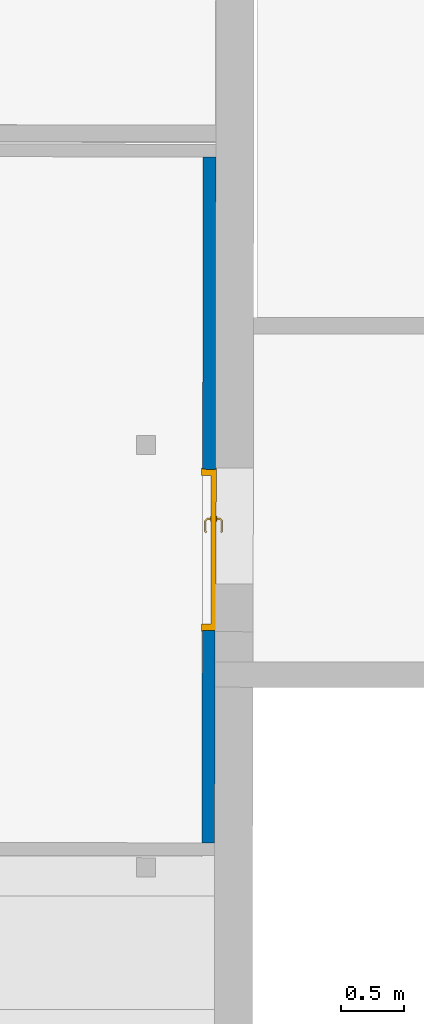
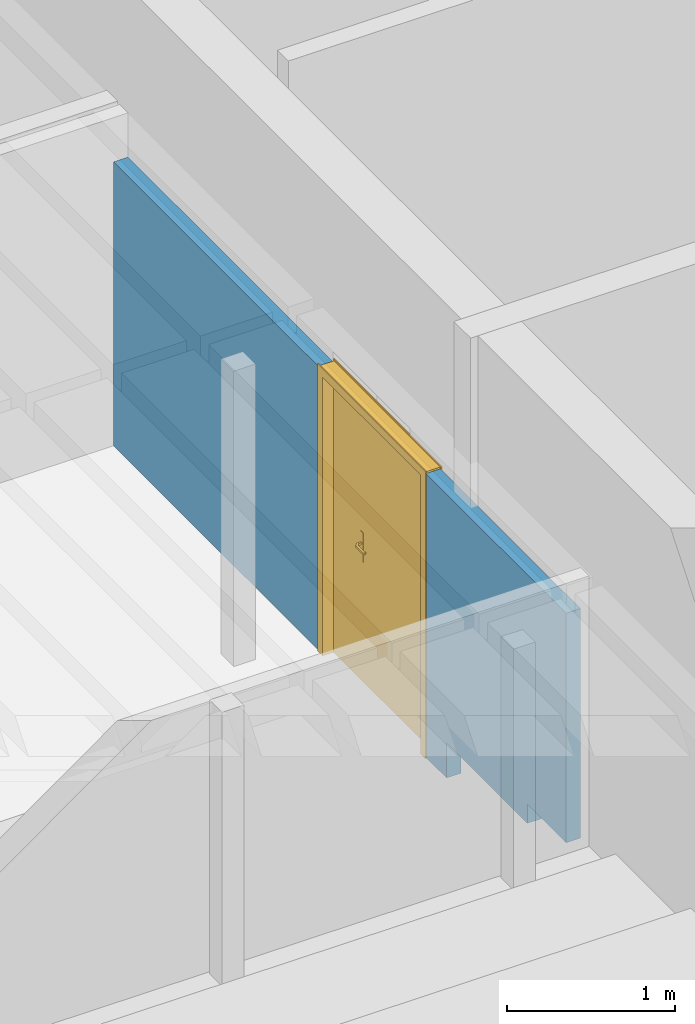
# One storey, part 14 of 24: 1 door, 1 wall, 1 opening.
"""IFC2X3 building model written with IfcOpenShell, lengths in metres."""

from ifc_helpers import new_model, entity, si_unit, converted_unit, derived_unit, direction, frame, frame_2d, origin, place, context, subcontext, project, spatial, rectangle, extrude, faceted_brep, source, transform, mapped, material, material_list, layer, layer_set, type_object, type_shapes, element, fill, save


model = new_model("IFC2X3")

# Units and contexts
model_context = context("Model", 3, precision=1e-05, world=origin(), true_north=direction((6.123233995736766e-17, 1.0)))
body_context = subcontext(model_context, "Body", "Model", "MODEL_VIEW")
ifc_project = project(units=[si_unit("LENGTHUNIT", "METRE"), si_unit("AREAUNIT", "SQUARE_METRE"), converted_unit("PLANEANGLEUNIT", "DEGREE", entity("IfcPlaneAngleMeasure", 0.017453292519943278), si_unit("PLANEANGLEUNIT", "RADIAN"), dimensions=[0, 0, 0, 0, 0, 0, 0]), derived_unit("THERMALTRANSMITTANCEUNIT", [(si_unit("MASSUNIT", "GRAM", prefix="KILO"), 1), (si_unit("THERMODYNAMICTEMPERATUREUNIT", "KELVIN"), -1), (si_unit("TIMEUNIT", "SECOND"), -3)])], contexts=[model_context])

# Site, building, storey
site_placement = place(None, frame((1253.6752467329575, 2072.143113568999, 91.49999999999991), z_axis=(0.0, 0.0, 1.0), x_axis=(0.7237211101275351, 0.6900925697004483, 0.0)))
site = spatial("IfcSite", under=ifc_project, at=site_placement, Name="Surface", CompositionType="ELEMENT")
building_placement = place(site_placement, origin())
building = spatial("IfcBuilding", under=site, at=building_placement, CompositionType="ELEMENT")
storey_placement = place(building_placement, frame((0.0, 0.0, -7.049999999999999)))
storey = spatial("IfcBuildingStorey", under=building, at=storey_placement, Name="R-1", CompositionType="ELEMENT", Elevation=-7.049999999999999)

# Wall, opening, door
ifc_material_1 = material(Name="OMD_Cloison 100mm CF1h")
ifc_layer = layer(ifc_material_1, 0.1)
ifc_layer_set = layer_set([ifc_layer], Name="Mur de base:Cloison 100mm CF1h")
wall_type = type_object("IfcWallType", Name="Mur de base:Cloison 100mm CF1h", PredefinedType="STANDARD", material=ifc_layer_set)
wall_placement = place(storey_placement, frame((188.11589279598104, -0.2127990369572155, 0.0), z_axis=(0.0, 0.0, 1.0), x_axis=(-0.6913353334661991, -0.7225340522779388, 0.0)))
wall = element("IfcWall", 1, at=wall_placement, inside=storey, type_object=wall_type, Name="Mur de base:Cloison 100mm CF1h", ObjectType="Mur de base:Cloison 100mm CF1h", context=body_context, shape_type="Brep", body=[
    faceted_brep([(0.0, -0.04999999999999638, 2.06199999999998), (0.0, -0.05000000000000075, 0.0), (2.4593574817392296, -0.05000000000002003, 0.0), (2.4593574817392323, -0.050000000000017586, 2.06199999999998), (2.4593574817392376, 0.049999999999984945, 0.0), (2.459357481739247, 0.04999999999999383, 2.06199999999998), (1.0454960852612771e-06, -0.048820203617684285, 2.06199999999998), (8.861665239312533e-05, 0.05000000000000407, 2.06199999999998), (8.861665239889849e-05, 0.05000000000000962, 0.0)], [[[0, 1, 2, 3]], [[3, 2, 4, 5]], [[1, 0, 6, 7, 8]], [[6, 0, 3]], [[1, 8, 4, 2]], [[7, 6, 3, 5]], [[8, 7, 5, 4]]]),
    faceted_brep([(5.403252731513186, 0.04999999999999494, 2.06199999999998), (5.403252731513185, 0.049999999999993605, 0.3952302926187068), (4.940337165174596, 0.05000000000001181, 0.39566373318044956), (4.94020607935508, 0.04999999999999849, 0.2556637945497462), (3.976823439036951, 0.049999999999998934, 0.2566225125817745), (3.976823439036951, 0.049999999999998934, 0.0), (3.7293574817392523, 0.04999999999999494, 0.0), (3.7293574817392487, 0.04999999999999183, 2.06199999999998), (5.403301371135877, -0.049999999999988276, 2.06199999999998), (5.403301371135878, -0.04999999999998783, 0.3952302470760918), (3.7293574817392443, -0.050000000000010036, 0.0), (3.7293574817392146, -0.04999999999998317, 2.06199999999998), (4.9402060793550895, -0.05000000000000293, 0.2556637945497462), (3.976872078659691, -0.05000000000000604, 0.25662246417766), (4.940337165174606, -0.04999999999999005, 0.39566373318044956), (3.976872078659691, -0.05000000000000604, 0.0)], [[[0, 1, 2, 3, 4, 5, 6, 7]], [[8, 9, 1, 0]], [[10, 11, 7, 6]], [[12, 13, 4, 3]], [[14, 12, 3, 2]], [[9, 14, 2, 1]], [[13, 15, 5, 4]], [[8, 0, 7, 11]], [[5, 15, 10, 6]], [[9, 8, 11, 10, 15, 13, 12, 14]]]),
])
opening_placement = place(wall_placement, frame((2.4593574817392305, -0.05000000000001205, 0.0)))
opening = element("IfcOpeningElement", 2, at=opening_placement, cuts=wall, Name="Tierce (R):1.20m x 2.04m:1", ObjectType="Opening", context=body_context, shape_type="SweptSolid", body=[
    extrude(rectangle(XDim=2.0749999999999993, YDim=1.2699999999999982, at=frame_2d((1.0374999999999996, 0.6350000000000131), x_axis=(1.0, 0.0))), frame((0.0, 0.0, 0.0), z_axis=(0.0, 1.0, 0.0), x_axis=(0.0, 0.0, 1.0)), (0.0, 0.0, 1.0), 0.09999999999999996),
])
ifc_material_2 = material(Name="Porte - Poignée")
ifc_material_3 = material(Name="OMD_RAL1032")
ifc_material_list = material_list([ifc_material_2, ifc_material_3])
door_style = type_object("IfcDoorStyle", Name="Tierce (R):1.20m x 2.04m", ConstructionType="NOTDEFINED", OperationType="NOTDEFINED", ParameterTakesPrecedence=False, Sizeable=False, material=ifc_material_list)
shared_shape = source(origin(), body_context, "Body", "Brep", [
    faceted_brep([(0.8820252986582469, 0.036999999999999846, 1.0077804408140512), (0.8779747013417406, 0.036999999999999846, 1.0077804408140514), (0.8739999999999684, 0.036999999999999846, 1.0069999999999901), (0.873999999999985, 0.036999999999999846, 0.993000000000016), (0.8779747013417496, 0.036999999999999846, 0.9922195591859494), (0.8820252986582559, 0.036999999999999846, 0.9922195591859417), (0.8860000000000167, 0.036999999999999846, 0.9929999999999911), (0.8860000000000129, 0.036999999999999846, 1.0069999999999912), (0.8739999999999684, 0.05948520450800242, 1.0069999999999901), (0.8739999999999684, 0.05948520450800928, 0.993000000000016), (0.8779747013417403, 0.061131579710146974, 1.0077804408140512), (0.8820252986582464, 0.062809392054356, 1.0077804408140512), (0.8658389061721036, 0.07899578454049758, 1.0077804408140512), (0.8641610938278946, 0.07494518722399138, 1.0077804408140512), (0.7807931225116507, 0.07494518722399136, 1.0077804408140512), (0.779115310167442, 0.07899578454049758, 1.007780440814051), (0.7714510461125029, 0.07133152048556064, 1.007780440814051), (0.7743152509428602, 0.06846731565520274, 1.0077804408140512), (0.8860000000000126, 0.06445576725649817, 1.0069999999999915), (0.8860000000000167, 0.06445576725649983, 0.9929999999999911), (0.882025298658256, 0.06280939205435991, 0.9922195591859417), (0.8779747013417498, 0.06113157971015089, 0.9922195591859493), (0.8641610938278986, 0.07494518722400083, 0.9922195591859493), (0.8658389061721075, 0.07899578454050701, 0.9922195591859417), (0.7791153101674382, 0.078995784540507, 0.9922195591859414), (0.7807931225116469, 0.0749451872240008, 0.9922195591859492), (0.7743152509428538, 0.0684673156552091, 0.9922195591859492), (0.7714510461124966, 0.07133152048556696, 0.9922195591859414), (0.8625147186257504, 0.07097048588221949, 1.0069999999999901), (0.8625147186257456, 0.07097048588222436, 0.993000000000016), (0.8674852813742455, 0.0829704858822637, 1.0069999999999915), (0.8674852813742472, 0.08297048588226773, 0.9929999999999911), (0.8224771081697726, 0.0709704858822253, 1.006999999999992), (0.782439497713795, 0.07097048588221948, 1.00699999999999), (0.7824394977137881, 0.0709704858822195, 0.9930000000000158), (0.8224771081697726, 0.07097048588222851, 0.9930000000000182), (0.8224771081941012, 0.07712492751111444, 1.0078781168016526), (0.8173994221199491, 0.0829704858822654, 1.0069999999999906), (0.7774689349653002, 0.08297048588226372, 1.006999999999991), (0.8275547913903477, 0.0829704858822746, 0.992999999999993), (0.7774689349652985, 0.08297048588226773, 0.9929999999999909), (0.8224771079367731, 0.07712492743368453, 0.992121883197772), (0.7686405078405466, 0.0741420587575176, 1.00699999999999), (0.7686405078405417, 0.07414205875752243, 0.9929999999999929), (0.7771257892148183, 0.06565677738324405, 0.9930000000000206), (0.777125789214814, 0.06565677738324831, 1.006999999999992)], [[[0, 1, 2, 3, 4, 5, 6, 7]], [[8, 9, 3, 2]], [[1, 10, 8, 2]], [[1, 0, 11, 12, 13, 10]], [[14, 15, 16, 17]], [[7, 18, 11, 0]], [[18, 7, 6, 19]], [[6, 5, 20, 19]], [[5, 4, 21, 22, 23, 20]], [[24, 25, 26, 27]], [[4, 3, 9, 21]], [[28, 29, 9, 8]], [[8, 10, 13, 28]], [[18, 30, 12, 11]], [[31, 30, 18, 19]], [[19, 20, 23, 31]], [[21, 9, 29, 22]], [[29, 28, 32, 33, 34, 35]], [[36, 32, 13]], [[37, 38, 15]], [[37, 12, 30]], [[36, 12, 37]], [[14, 32, 36]], [[36, 15, 14]], [[28, 13, 32]], [[32, 14, 33]], [[12, 36, 13]], [[15, 36, 37]], [[30, 31, 39, 40, 38, 37]], [[23, 41, 39]], [[24, 39, 41]], [[39, 31, 23]], [[39, 24, 40]], [[22, 35, 41]], [[41, 23, 22]], [[41, 35, 25]], [[35, 22, 29]], [[34, 25, 35]], [[24, 41, 25]], [[17, 16, 42, 43, 27, 26, 44, 45]], [[45, 44, 34, 33]], [[33, 14, 17, 45]], [[15, 38, 42, 16]], [[43, 42, 38, 40]], [[24, 27, 43, 40]], [[34, 44, 26, 25]]]),
    faceted_brep([(0.8779747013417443, -0.013000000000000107, 1.0077804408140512), (0.8820252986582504, -0.013000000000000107, 1.007780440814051), (0.8860000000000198, -0.013000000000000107, 1.0069999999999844), (0.8860000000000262, -0.013000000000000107, 0.9929999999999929), (0.8820252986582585, -0.013000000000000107, 0.9922195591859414), (0.8779747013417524, -0.013000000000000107, 0.9922195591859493), (0.8739999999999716, -0.013000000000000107, 0.9930000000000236), (0.8739999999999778, -0.013000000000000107, 1.0069999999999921), (0.8820252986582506, -0.03900457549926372, 1.007780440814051), (0.8860000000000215, -0.04065095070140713, 1.0069999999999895), (0.8779747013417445, -0.03732676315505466, 1.0077804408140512), (0.8642986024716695, -0.05100286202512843, 1.0077804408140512), (0.8659764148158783, -0.055053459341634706, 1.007780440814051), (0.7791424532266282, -0.055053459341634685, 1.0077804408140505), (0.7808202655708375, -0.05100286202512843, 1.007780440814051), (0.7743423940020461, -0.044524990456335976, 1.007780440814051), (0.7714781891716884, -0.04738919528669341, 1.0077804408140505), (0.8739999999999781, -0.03568038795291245, 1.0069999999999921), (0.8739999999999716, -0.03568038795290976, 0.9930000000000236), (0.8779747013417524, -0.03732676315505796, 0.9922195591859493), (0.8820252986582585, -0.03900457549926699, 0.9922195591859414), (0.8659764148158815, -0.05505345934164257, 0.9922195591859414), (0.8642986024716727, -0.05100286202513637, 0.9922195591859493), (0.7808202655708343, -0.05100286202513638, 0.9922195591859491), (0.7791424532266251, -0.05505345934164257, 0.9922195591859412), (0.7714781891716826, -0.04738919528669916, 0.9922195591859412), (0.7743423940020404, -0.04452499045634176, 0.9922195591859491), (0.8860000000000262, -0.0406509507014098, 0.9929999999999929), (0.8676227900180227, -0.05902816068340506, 1.0069999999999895), (0.8626522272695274, -0.047028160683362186, 1.0069999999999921), (0.8626522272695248, -0.047028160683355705, 0.9930000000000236), (0.8676227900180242, -0.05902816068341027, 0.9929999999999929), (0.8225594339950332, -0.05318280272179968, 1.0078781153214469), (0.8276923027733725, -0.059028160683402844, 1.0069999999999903), (0.777496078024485, -0.05902816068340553, 1.0069999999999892), (0.8225594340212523, -0.047028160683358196, 1.006999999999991), (0.7824666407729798, -0.04702816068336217, 1.006999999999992), (0.8225594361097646, -0.04702816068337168, 0.9930000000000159), (0.7824666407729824, -0.04702816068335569, 0.9930000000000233), (0.8225594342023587, -0.053182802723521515, 0.9921218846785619), (0.8174265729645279, -0.059028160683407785, 0.9929999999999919), (0.7774960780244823, -0.05902816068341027, 0.9929999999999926), (0.7771529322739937, -0.041714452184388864, 0.9930000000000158), (0.7686676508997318, -0.05019973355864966, 0.9929999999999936), (0.7686676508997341, -0.050199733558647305, 1.0069999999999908), (0.7771529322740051, -0.04171445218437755, 1.0069999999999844)], [[[0, 1, 2, 3, 4, 5, 6, 7]], [[2, 1, 8, 9]], [[1, 0, 10, 11, 12, 8]], [[13, 14, 15, 16]], [[0, 7, 17, 10]], [[18, 17, 7, 6]], [[5, 19, 18, 6]], [[5, 4, 20, 21, 22, 19]], [[23, 24, 25, 26]], [[3, 27, 20, 4]], [[9, 27, 3, 2]], [[9, 8, 12, 28]], [[10, 17, 29, 11]], [[30, 29, 17, 18]], [[18, 19, 22, 30]], [[20, 27, 31, 21]], [[28, 31, 27, 9]], [[12, 32, 33]], [[13, 33, 32]], [[33, 28, 12]], [[33, 13, 34]], [[11, 35, 32]], [[32, 12, 11]], [[32, 35, 14]], [[35, 11, 29]], [[36, 14, 35]], [[13, 32, 14]], [[29, 30, 37, 38, 36, 35]], [[39, 37, 22]], [[40, 41, 24]], [[40, 21, 31]], [[39, 21, 40]], [[23, 37, 39]], [[39, 24, 23]], [[30, 22, 37]], [[37, 23, 38]], [[21, 39, 22]], [[24, 39, 40]], [[31, 28, 33, 34, 41, 40]], [[42, 26, 25, 43, 44, 16, 15, 45]], [[13, 16, 44, 34]], [[36, 45, 15, 14]], [[42, 45, 36, 38]], [[38, 23, 26, 42]], [[24, 41, 43, 25]], [[44, 43, 41, 34]]]),
    faceted_brep([(0.8799999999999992, 0.031999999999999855, 0.8646410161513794), (0.8903527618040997, 0.03199999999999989, 0.866003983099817), (0.8999999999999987, 0.03199999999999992, 0.8700000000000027), (0.8999999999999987, 0.03199999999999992, 1.0800000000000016), (0.8903527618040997, 0.03199999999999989, 1.0839960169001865), (0.8799999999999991, 0.031999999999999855, 1.0853589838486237), (0.8696472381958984, 0.03199999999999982, 1.0839960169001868), (0.8599999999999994, 0.03199999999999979, 1.0800000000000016), (0.8599999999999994, 0.03199999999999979, 0.8700000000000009), (0.8696472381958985, 0.03199999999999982, 0.8660039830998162), (0.8799999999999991, 0.03699999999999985, 1.0853589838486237), (0.8903527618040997, 0.03699999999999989, 1.0839960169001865), (0.8999999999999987, 0.03699999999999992, 1.0800000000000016), (0.8999999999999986, 0.03699999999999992, 0.8700000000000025), (0.8903527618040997, 0.03699999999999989, 0.866003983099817), (0.8799999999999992, 0.03699999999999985, 0.8646410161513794), (0.8696472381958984, 0.03699999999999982, 0.8660039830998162), (0.8599999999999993, 0.0369999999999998, 0.8700000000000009), (0.8599999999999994, 0.0369999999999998, 1.0800000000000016), (0.8696472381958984, 0.03699999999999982, 1.0839960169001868)], [[[0, 1, 2, 3, 4, 5, 6, 7, 8, 9]], [[10, 11, 12, 13, 14, 15, 16, 17, 18, 19]], [[6, 19, 18, 7]], [[5, 10, 19, 6]], [[4, 11, 10, 5]], [[4, 3, 12, 11]], [[12, 3, 2, 13]], [[1, 14, 13, 2]], [[0, 15, 14, 1]], [[9, 16, 15, 0]], [[9, 8, 17, 16]], [[17, 8, 7, 18]]]),
    faceted_brep([(0.8799999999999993, -0.013000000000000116, 0.8646410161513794), (0.8903527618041, -0.013000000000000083, 0.8660039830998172), (0.8999999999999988, -0.013000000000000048, 0.8700000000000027), (0.8999999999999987, -0.013000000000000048, 1.0800000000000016), (0.8903527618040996, -0.013000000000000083, 1.0839960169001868), (0.8799999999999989, -0.013000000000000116, 1.0853589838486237), (0.8696472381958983, -0.01300000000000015, 1.0839960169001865), (0.8599999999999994, -0.013000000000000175, 1.0800000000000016), (0.8599999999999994, -0.013000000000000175, 0.8700000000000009), (0.8696472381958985, -0.01300000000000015, 0.8660039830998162), (0.8999999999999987, -0.00800000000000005, 1.0800000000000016), (0.8999999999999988, -0.00800000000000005, 0.8700000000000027), (0.8903527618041, -0.008000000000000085, 0.8660039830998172), (0.8799999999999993, -0.008000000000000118, 0.8646410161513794), (0.8696472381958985, -0.008000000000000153, 0.8660039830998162), (0.8599999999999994, -0.008000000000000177, 0.8700000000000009), (0.8599999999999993, -0.008000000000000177, 1.0800000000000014), (0.8696472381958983, -0.008000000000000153, 1.0839960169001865), (0.8799999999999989, -0.008000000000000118, 1.0853589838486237), (0.8903527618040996, -0.008000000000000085, 1.0839960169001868)], [[[0, 1, 2, 3, 4, 5, 6, 7, 8, 9]], [[10, 11, 12, 13, 14, 15, 16, 17, 18, 19]], [[1, 12, 11, 2]], [[0, 13, 12, 1]], [[9, 14, 13, 0]], [[9, 8, 15, 14]], [[15, 8, 7, 16]], [[6, 17, 16, 7]], [[5, 18, 17, 6]], [[4, 19, 18, 5]], [[4, 3, 10, 19]], [[10, 3, 2, 11]]]),
    faceted_brep([(0.0, 0.0, 0.0), (0.0, 0.10000000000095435, 0.0), (-0.010000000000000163, 0.10000000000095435, 0.0), (-0.010000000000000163, 0.10800000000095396, 0.0), (0.04999999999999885, 0.10800000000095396, 0.0), (0.04999999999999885, 0.032000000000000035, 0.0), (0.03499999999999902, 0.032000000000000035, 0.0), (0.03499999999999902, -0.007999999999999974, 0.0), (-0.010000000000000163, -0.007999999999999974, 0.0), (-0.010000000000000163, 0.0, 0.0), (0.0, 0.0, 2.0749999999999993), (0.0, 0.10000000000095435, 2.0749999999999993), (1.269999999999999, 0.10000000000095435, 2.0749999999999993), (1.2699999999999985, 0.10000000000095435, 0.0), (1.2799999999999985, 0.10000000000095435, 0.0), (1.2799999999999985, 0.10000000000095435, 2.084999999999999), (-0.010000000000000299, 0.10000000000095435, 2.084999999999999), (-0.010000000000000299, 0.10800000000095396, 2.084999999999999), (1.2799999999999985, 0.10800000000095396, 2.084999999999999), (1.2799999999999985, 0.10800000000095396, 0.0), (1.2199999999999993, 0.10800000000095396, 0.0), (1.2199999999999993, 0.10800000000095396, 2.0250000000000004), (0.04999999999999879, 0.10800000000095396, 2.0250000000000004), (0.04999999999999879, 0.032000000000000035, 2.0250000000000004), (1.2199999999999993, 0.032000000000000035, 2.0250000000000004), (1.2199999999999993, 0.032000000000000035, 0.0), (1.2349999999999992, 0.032000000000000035, 0.0), (1.2349999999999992, 0.032000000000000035, 2.04), (0.03499999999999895, 0.032000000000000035, 2.0400000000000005), (0.03499999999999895, -0.007999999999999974, 2.0400000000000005), (1.2349999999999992, -0.007999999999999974, 2.04), (1.2349999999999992, -0.007999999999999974, 0.0), (1.2799999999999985, -0.007999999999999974, 0.0), (1.2799999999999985, -0.007999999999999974, 2.084999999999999), (-0.010000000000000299, -0.007999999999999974, 2.084999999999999), (-0.010000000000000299, 0.0, 2.084999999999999), (1.2799999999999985, 0.0, 2.084999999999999), (1.2799999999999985, 0.0, 0.0), (1.2699999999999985, 0.0, 0.0), (1.2699999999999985, 0.0, 2.0749999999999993)], [[[0, 1, 2, 3, 4, 5, 6, 7, 8, 9]], [[1, 0, 10, 11]], [[2, 1, 11, 12, 13, 14, 15, 16]], [[3, 2, 16, 17]], [[4, 3, 17, 18, 19, 20, 21, 22]], [[5, 4, 22, 23]], [[6, 5, 23, 24, 25, 26, 27, 28]], [[7, 6, 28, 29]], [[8, 7, 29, 30, 31, 32, 33, 34]], [[9, 8, 34, 35]], [[0, 9, 35, 36, 37, 38, 39, 10]], [[12, 39, 38, 13]], [[38, 37, 32, 31, 26, 25, 20, 19, 14, 13]], [[18, 15, 14, 19]], [[24, 21, 20, 25]], [[30, 27, 26, 31]], [[36, 33, 32, 37]], [[11, 10, 39, 12]], [[17, 16, 15, 18]], [[23, 22, 21, 24]], [[29, 28, 27, 30]], [[35, 34, 33, 36]]]),
    faceted_brep([(1.2349999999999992, -0.007999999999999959, 2.04), (0.9349999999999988, -0.007999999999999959, 2.04), (0.9349999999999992, -0.007999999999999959, 0.0), (1.2349999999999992, -0.007999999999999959, 0.0), (1.2349999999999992, 0.032000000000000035, 2.04), (1.2349999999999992, 0.032000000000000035, 0.0), (0.9349999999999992, 0.032000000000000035, 0.0), (0.9349999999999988, 0.032000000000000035, 2.04)], [[[0, 1, 2, 3]], [[4, 5, 6, 7]], [[1, 0, 4, 7]], [[2, 1, 7, 6]], [[3, 2, 6, 5]], [[0, 3, 5, 4]]]),
    faceted_brep([(0.03499999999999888, -0.007999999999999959, 0.0), (0.9349999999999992, -0.007999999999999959, 0.0), (0.9349999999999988, -0.007999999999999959, 2.0399999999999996), (0.03499999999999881, -0.007999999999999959, 2.0399999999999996), (0.03499999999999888, 0.032000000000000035, 0.0), (0.03499999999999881, 0.032000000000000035, 2.0399999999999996), (0.9349999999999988, 0.032000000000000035, 2.0399999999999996), (0.9349999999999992, 0.032000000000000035, 0.0)], [[[0, 1, 2, 3]], [[4, 5, 6, 7]], [[1, 0, 4, 7]], [[2, 1, 7, 6]], [[3, 2, 6, 5]], [[0, 3, 5, 4]]]),
])
type_shapes(door_style, [shared_shape])
door_placement = place(opening_placement, frame((1.2700000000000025, 0.10000000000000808, 0.0), z_axis=(0.0, 0.0, 1.0), x_axis=(-1.0, 0.0, 0.0)))
door = element("IfcDoor", 3, at=door_placement, inside=storey, type_object=door_style, material=ifc_material_list, Name="Tierce (R):1.20m x 2.04m", ObjectType="Tierce (R):1.20m x 2.04m", OverallHeight=2.0749999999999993, OverallWidth=1.2700000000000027, context=body_context, shape_type="MappedRepresentation", body=[
    mapped(shared_shape, transform((0.0, 0.0, 0.0), scale=1.0)),
])
fill(opening, door)

save(model, "model.ifc")
